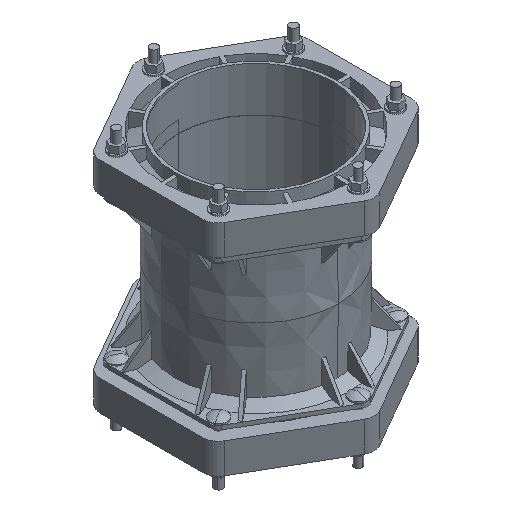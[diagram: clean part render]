
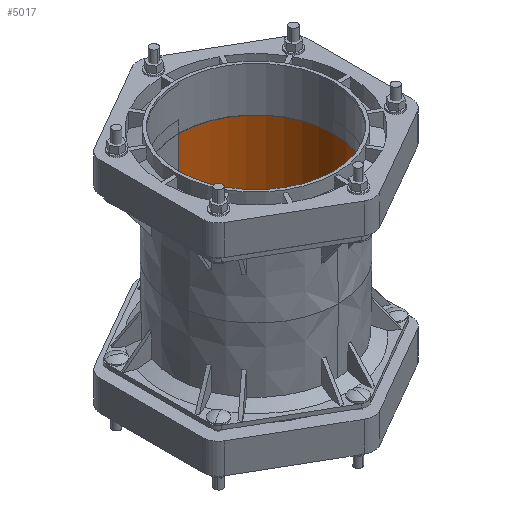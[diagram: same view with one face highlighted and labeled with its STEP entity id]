
A CAD part, isometric view. The second image highlights one B-rep face of the part: STEP entity #5017.
In plain terms, the highlighted cylindrical face has radius 155.75 mm (diameter 311.5 mm), a partial arc.
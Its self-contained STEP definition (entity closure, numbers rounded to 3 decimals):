
#1787=DIRECTION('',(0.,0.,-1.));
#1788=VECTOR('',#1787,271.555);
#1789=CARTESIAN_POINT('',(0.,-155.75,135.778));
#1790=LINE('',#1789,#1788);
#1791=CARTESIAN_POINT('',(0.,0.,-135.778));
#1792=DIRECTION('',(0.,0.,-1.));
#1793=DIRECTION('',(0.,1.,0.));
#1794=AXIS2_PLACEMENT_3D('',#1791,#1792,#1793);
#1796=DIRECTION('',(0.,0.,1.));
#1797=VECTOR('',#1796,271.555);
#1798=CARTESIAN_POINT('',(0.,155.75,-135.778));
#1799=LINE('',#1798,#1797);
#1800=CARTESIAN_POINT('',(0.,0.,135.778));
#1801=DIRECTION('',(0.,0.,-1.));
#1802=DIRECTION('',(0.,1.,0.));
#1803=AXIS2_PLACEMENT_3D('',#1800,#1801,#1802);
#2585=CARTESIAN_POINT('',(0.,155.75,135.778));
#2587=VERTEX_POINT('',#2585);
#2589=CARTESIAN_POINT('',(0.,-155.75,135.778));
#2591=VERTEX_POINT('',#2589);
#2910=CARTESIAN_POINT('',(0.,155.75,-135.778));
#2912=VERTEX_POINT('',#2910);
#2914=CARTESIAN_POINT('',(0.,-155.75,-135.778));
#2916=VERTEX_POINT('',#2914);
#5005=CARTESIAN_POINT('',(0.,0.,-7.5));
#5006=DIRECTION('',(0.,0.,1.));
#5007=DIRECTION('',(0.,1.,0.));
#5008=AXIS2_PLACEMENT_3D('',#5005,#5006,#5007);
#5009=CYLINDRICAL_SURFACE('',#5008,155.75);
#5010=ORIENTED_EDGE('',*,*,#4998,.T.);
#5011=ORIENTED_EDGE('',*,*,#4969,.F.);
#5012=ORIENTED_EDGE('',*,*,#4995,.T.);
#5014=ORIENTED_EDGE('',*,*,#5013,.T.);
#5015=EDGE_LOOP('',(#5010,#5011,#5012,#5014));
#5016=FACE_OUTER_BOUND('',#5015,.F.);
#5017=ADVANCED_FACE('',(#5016),#5009,.F.);
#1795=CIRCLE('',#1794,155.75);
#1804=CIRCLE('',#1803,155.75);
#4969=EDGE_CURVE('',#2912,#2916,#1795,.T.);
#4995=EDGE_CURVE('',#2912,#2587,#1799,.T.);
#4998=EDGE_CURVE('',#2591,#2916,#1790,.T.);
#5013=EDGE_CURVE('',#2587,#2591,#1804,.T.);
